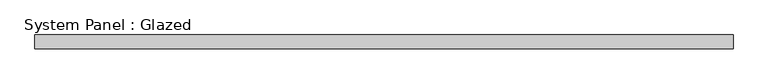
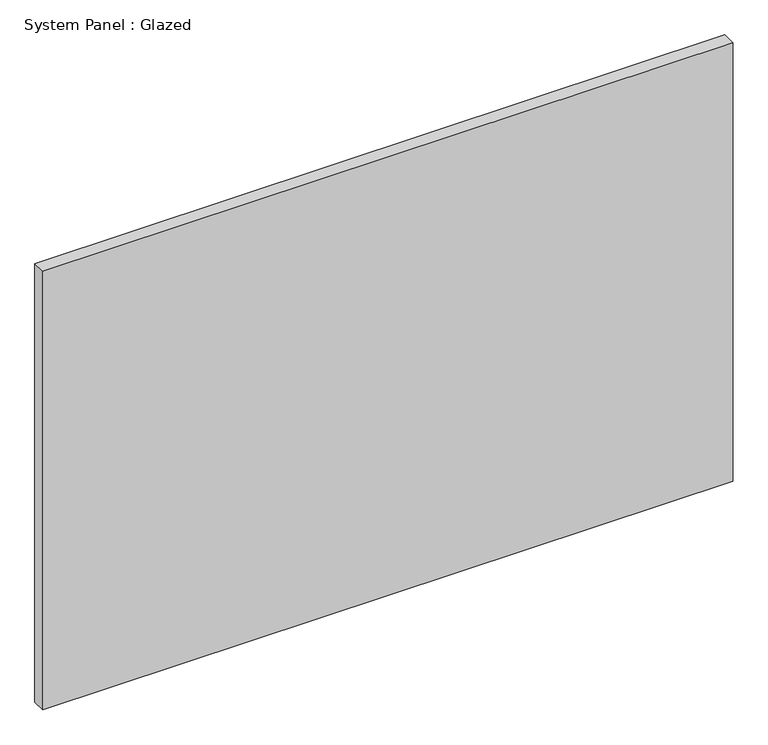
"""IFC4 building model written with IfcOpenShell, lengths in millimetres: plate geometry, System Panel : Glazed."""

from ifc_helpers import new_model, si_unit, origin, origin_with_axes, place, context, project, spatial, polyline, outline, extrude, source, transform, mapped, element, save


def system_panel_glazed_57fb76c6(model_context):
    return source(origin(), model_context, "Body", "SweptSolid", [
        extrude(outline(polyline([(647.7, -44.45), (-647.7, -44.45), (-647.7, -19.05), (647.7, -19.05), (647.7, -44.45)])), origin_with_axes(), (0.0, 0.0, 1.0), 869.95),
    ])


if __name__ == "__main__":
    model = new_model("IFC4")
    model_context = context("Model", 3, world=origin())
    ifc_project = project(units=[si_unit("LENGTHUNIT", "METRE", prefix="MILLI")], contexts=[model_context])
    site = spatial("IfcSite", under=ifc_project)
    building = spatial("IfcBuilding", under=site)
    placement = place(None, origin())
    system_panel_glazed_shape = system_panel_glazed_57fb76c6(model_context)
    element("IfcPlate", 1, ObjectType="System Panel : Glazed", at=placement, inside=building, context=model_context, shape_type="MappedRepresentation", body=[
        mapped(system_panel_glazed_shape, transform((0.0, 0.0, 0.0), x_axis=(1.0, 0.0, 0.0), y_axis=(0.0, 1.0, 0.0), z_axis=(0.0, 0.0, 1.0))),
    ])
    save(model, "model.ifc")
